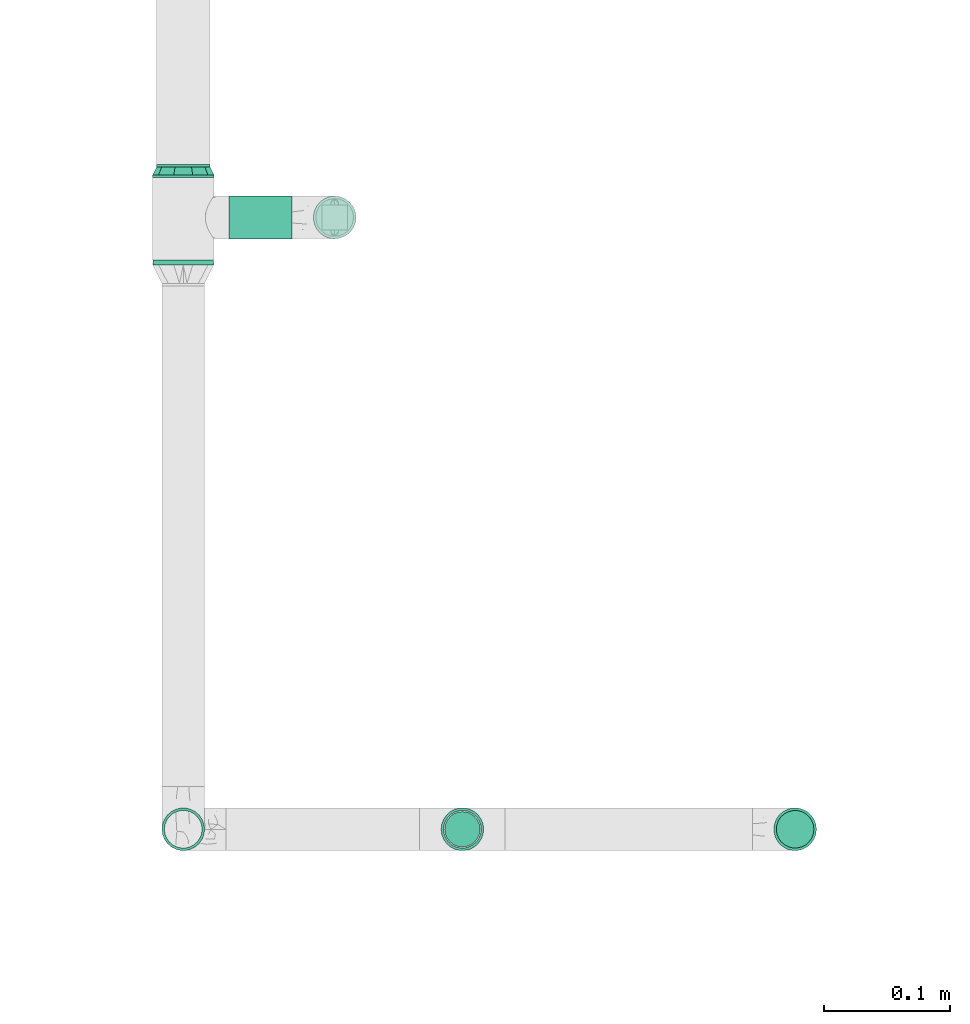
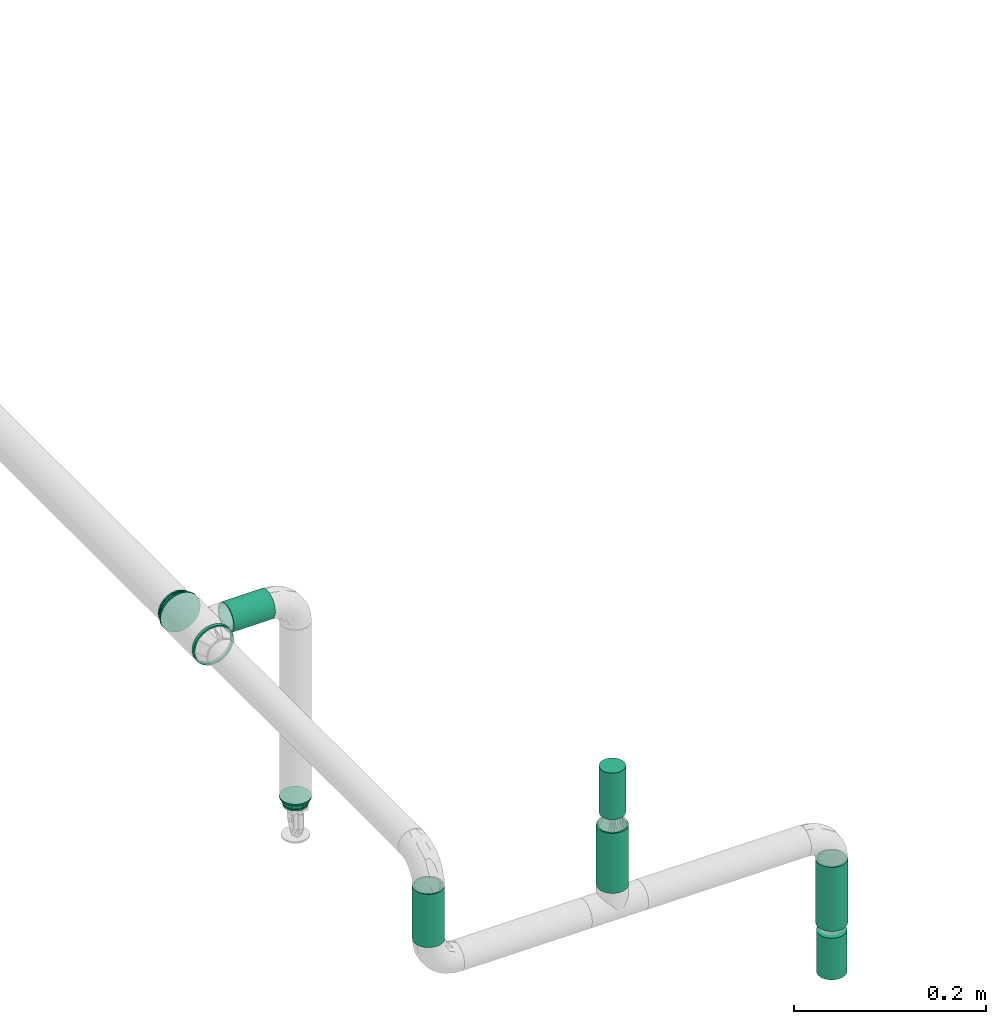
# One storey, part 13 of 43: 5 flow segments, 2 flow fittings, 2 flow terminals.
"""IFC2X3 building model written with IfcOpenShell, lengths in millimetres."""

import ifcopenshell
import ifcopenshell.guid

model = None  # the IFC model being written
_history = None  # IfcOwnerHistory: only IFC2X3 demands one
_inside = {}  # id of a spatial element -> (the spatial element, [elements in it])
_under = {}  # id of a project, library or spatial element -> (it, [spatial elements below it])
_declared = {}  # id of a project -> (the project, [libraries it declares])
_typed = {}  # id of a type object -> (the type object, [elements of that type])
_made_of = {}  # id of a material, layer set ... -> (it, [elements and type objects made of it])


def new_model(schema):
    """Start an empty IFC model of exactly this schema.

    Asked for "IFC4X3", IfcOpenShell would pick the latest addendum, in which some entities
    have other attributes; the version numbers below select the first issue.
    IFC2X3 requires an IfcOwnerHistory on every rooted entity: one is made here for all.
    """
    global model, _history
    if schema == "IFC4X3":
        model = ifcopenshell.file(schema_version=(4, 3, 0, 0))
    else:
        model = ifcopenshell.file(schema=schema)
    _inside.clear()
    _under.clear()
    _declared.clear()
    _typed.clear()
    _made_of.clear()
    _history = None
    if model.schema == "IFC2X3":
        org = make("IfcOrganization", Name="unknown")
        user = make(
            "IfcPersonAndOrganization",
            ThePerson=make("IfcPerson", FamilyName="unknown"),
            TheOrganization=org,
        )
        app = make(
            "IfcApplication",
            ApplicationDeveloper=org,
            Version="unknown",
            ApplicationFullName="unknown",
            ApplicationIdentifier="unknown",
        )
        _history = make(
            "IfcOwnerHistory",
            OwningUser=user,
            OwningApplication=app,
            ChangeAction="ADDED",
            CreationDate=0,
        )
    return model


def make(cls, **values):
    """One entity of the class cls with the attributes given. An attribute that is None is left unset."""
    return model.create_entity(
        cls, **{name: value for name, value in values.items() if value is not None}
    )


def entity(cls, *values):
    """Any entity or typed value of the class cls, its attributes in the order of the schema. None: left unset."""
    e = model.create_entity(cls)
    for i, value in enumerate(values):
        if value is not None:
            e[i] = value
    return e


def rooted(cls, **values):
    """An entity with a GlobalId (a new one), such as an element, a storey or a relation."""
    return make(cls, GlobalId=ifcopenshell.guid.new(), OwnerHistory=_history, **values)


def si_unit(unit_type, name, prefix=None):
    """IfcSIUnit, for example si_unit("LENGTHUNIT", "METRE", prefix="MILLI")."""
    return make("IfcSIUnit", UnitType=unit_type, Prefix=prefix, Name=name)


def converted_unit(unit_type, name, factor, base, dimensions=None, offset=None):
    """IfcConversionBasedUnit, such as the inch: factor (a typed value) times the base unit."""
    return make(
        "IfcConversionBasedUnit"
        if offset is None
        else "IfcConversionBasedUnitWithOffset",
        ConversionOffset=offset,
        Dimensions=None
        if dimensions is None
        else entity("IfcDimensionalExponents", *dimensions),
        UnitType=unit_type,
        Name=name,
        ConversionFactor=make(
            "IfcMeasureWithUnit", ValueComponent=factor, UnitComponent=base
        ),
    )


def derived_unit(unit_type, elements):
    """IfcDerivedUnit: a product of units, each with its exponent."""
    return make(
        "IfcDerivedUnit",
        Elements=[
            make("IfcDerivedUnitElement", Unit=unit, Exponent=power)
            for unit, power in elements
        ],
        UnitType=unit_type,
    )


def assignment(units):
    """IfcUnitAssignment: the units of a project."""
    return None if units is None else make("IfcUnitAssignment", Units=units)


def point(xyz):
    """IfcCartesianPoint."""
    return None if xyz is None else make("IfcCartesianPoint", Coordinates=xyz)


def direction(xyz):
    """IfcDirection."""
    return None if xyz is None else make("IfcDirection", DirectionRatios=xyz)


def frame(location, z_axis=None, x_axis=None):
    """IfcAxis2Placement3D, a coordinate frame: its origin and axes. An axis left out is left unset."""
    return make(
        "IfcAxis2Placement3D",
        Location=point(location),
        Axis=direction(z_axis),
        RefDirection=direction(x_axis),
    )


def frame_2d(location, x_axis=None):
    """IfcAxis2Placement2D, a coordinate frame in the plane: its origin and x axis."""
    return make(
        "IfcAxis2Placement2D", Location=point(location), RefDirection=direction(x_axis)
    )


def origin_with_axes():
    """The frame at (0, 0, 0) with the z axis (0, 0, 1) and the x axis (1, 0, 0) written out."""
    return frame((0.0, 0.0, 0.0), z_axis=(0.0, 0.0, 1.0), x_axis=(1.0, 0.0, 0.0))


def origin_2d_with_axis():
    """The frame at (0, 0) in the plane with the x axis (1, 0) written out."""
    return frame_2d((0.0, 0.0), x_axis=(1.0, 0.0))


def place(relative_to, where):
    """IfcLocalPlacement: puts the frame where relative to a parent placement (None: the world)."""
    return make(
        "IfcLocalPlacement", PlacementRelTo=relative_to, RelativePlacement=where
    )


def context(
    kind, dimensions, precision=None, world=None, true_north=None, identifier=None
):
    """IfcGeometricRepresentationContext, for example the 3D "Model" context."""
    return make(
        "IfcGeometricRepresentationContext",
        ContextIdentifier=identifier,
        ContextType=kind,
        CoordinateSpaceDimension=dimensions,
        Precision=precision,
        WorldCoordinateSystem=world,
        TrueNorth=true_north,
    )


def subcontext(parent, identifier, kind, view, scale=None):
    """IfcGeometricRepresentationSubContext, for example "Body" below "Model"."""
    return make(
        "IfcGeometricRepresentationSubContext",
        ContextIdentifier=identifier,
        ContextType=kind,
        ParentContext=parent,
        TargetScale=scale,
        TargetView=view,
    )


def project(units=None, contexts=None):
    """IfcProject with its units and contexts."""
    return rooted(
        "IfcProject",
        Name="project",
        RepresentationContexts=contexts,
        UnitsInContext=assignment(units),
    )


def spatial(cls, under=None, at=None, **own):
    """A site, building, storey or space (cls), placed at a placement, below another one or the project."""
    s = rooted(cls, ObjectPlacement=at, **own)
    if under is not None:
        _under.setdefault(under.id(), (under, []))[1].append(s)
    return s


def profile(cls, at=None, kind="AREA", **sizes):
    """A parametric profile (cls). Its sizes go by their IFC names, for example OverallWidth=200.0."""
    return make(cls, ProfileType=kind, Position=at, **sizes)


def hollow_circle(**sizes):
    """IfcCircleHollowProfileDef."""
    return profile("IfcCircleHollowProfileDef", **sizes)


def extrude(swept, where, along, depth):
    """IfcExtrudedAreaSolid: the profile swept, set in the frame where, extruded along a direction by depth."""
    return make(
        "IfcExtrudedAreaSolid",
        SweptArea=swept,
        Position=where,
        ExtrudedDirection=direction(along),
        Depth=depth,
    )


def faces_of(points, faces, orient=None, outer=None):
    """IfcFace entities. A face is a list of loops; a loop is a list of indices into points, from 0.

    orient and outer hold one flag for each loop. By default every Orientation is true, the
    first loop of a face is its IfcFaceOuterBound and the others are IfcFaceBound.
    """
    made = []
    for i, loops in enumerate(faces):
        bounds = []
        for j, loop in enumerate(loops):
            is_outer = j == 0 if outer is None else outer[i][j]
            bounds.append(
                make(
                    "IfcFaceOuterBound" if is_outer else "IfcFaceBound",
                    Bound=make("IfcPolyLoop", Polygon=[points[k] for k in loop]),
                    Orientation=True if orient is None else orient[i][j],
                )
            )
        made.append(make("IfcFace", Bounds=bounds))
    return made


def open_shell(faces, orient=None, outer=None):
    """The faces of one IfcOpenShell. surface_model builds it on its shared points."""
    return ("IfcOpenShell", faces, orient, outer)


def surface_model(cls, points, shells):
    """IfcFaceBasedSurfaceModel or IfcShellBasedSurfaceModel (cls): surfaces that need not close."""
    shared = [point(p) for p in points]
    made = [make(c, CfsFaces=faces_of(shared, fs, o, b)) for c, fs, o, b in shells]
    if cls == "IfcFaceBasedSurfaceModel":
        return make(cls, FbsmFaces=made)
    return make(cls, SbsmBoundary=made)


def shape(context_of_items, identifier, shape_type, items):
    """IfcShapeRepresentation: the items that make up one representation, for example the "Body"."""
    return make(
        "IfcShapeRepresentation",
        ContextOfItems=context_of_items,
        RepresentationIdentifier=identifier,
        RepresentationType=shape_type,
        Items=items,
    )


def source(mapping_origin, context_of_items, identifier, shape_type, items):
    """IfcRepresentationMap: a shape defined once, which mapped items show again and again."""
    return make(
        "IfcRepresentationMap",
        MappingOrigin=mapping_origin,
        MappedRepresentation=shape(context_of_items, identifier, shape_type, items),
    )


def transform(
    local_origin,
    x_axis=None,
    y_axis=None,
    z_axis=None,
    scale=None,
    scale2=None,
    scale3=None,
    uniform=True,
):
    """IfcCartesianTransformationOperator3D, or its non-uniform kind. x_axis, y_axis, z_axis: its Axis1, 2, 3."""
    if uniform:
        return make(
            "IfcCartesianTransformationOperator3D",
            Axis1=direction(x_axis),
            Axis2=direction(y_axis),
            LocalOrigin=point(local_origin),
            Scale=scale,
            Axis3=direction(z_axis),
        )
    return make(
        "IfcCartesianTransformationOperator3DnonUniform",
        Axis1=direction(x_axis),
        Axis2=direction(y_axis),
        LocalOrigin=point(local_origin),
        Scale=scale,
        Axis3=direction(z_axis),
        Scale2=scale2,
        Scale3=scale3,
    )


def mapped(mapping_source, mapping_target):
    """IfcMappedItem: shows the shape of a source again, moved by a transform."""
    return make(
        "IfcMappedItem", MappingSource=mapping_source, MappingTarget=mapping_target
    )


def made_of(thing, what):
    """Note that an element or type object is made of a material, layer set ...; save() writes the relation."""
    if what is not None:
        _made_of.setdefault(what.id(), (what, []))[1].append(thing)
    return thing


def type_object(cls, material=None, **own):
    """A type object (cls), such as IfcWallType, which elements share."""
    return made_of(rooted(cls, **own), material)


def element(
    cls,
    number,
    at=None,
    inside=None,
    cuts=None,
    type_object=None,
    material=None,
    context=None,
    identifier="Body",
    shape_type=None,
    held_by="IfcProductDefinitionShape",
    body=None,
    shapes=None,
    **own,
):
    """One element of the class cls, such as IfcWall. Its Tag is "e" and its number.

    at: its placement. inside: the storey or other place that contains it. cuts: it is an
    opening in that element (IfcRelVoidsElement). A single representation is given by context,
    identifier, shape_type and body (its items); several are given by shapes. held_by: the class
    of the entity that holds the representations. save() writes the other relations.
    """
    e = rooted(cls, Tag="e%d" % number, ObjectPlacement=at, **own)
    if body is not None:
        shapes = [shape(context, identifier, shape_type, body)]
    if shapes is not None:
        e.Representation = make(held_by, Representations=shapes)
    if inside is not None:
        _inside.setdefault(inside.id(), (inside, []))[1].append(e)
    if cuts is not None:
        rooted(
            "IfcRelVoidsElement", RelatingBuildingElement=cuts, RelatedOpeningElement=e
        )
    if type_object is not None:
        _typed.setdefault(type_object.id(), (type_object, []))[1].append(e)
    return made_of(e, material)


def aggregate(whole, parts):
    """IfcRelAggregates: a whole, such as a stair, and the parts it consists of."""
    return rooted("IfcRelAggregates", RelatingObject=whole, RelatedObjects=parts)


def save(model, path):
    """Write the relations noted so far, then the file.

    IfcRelAggregates (storeys below a building ...), IfcRelContainedInSpatialStructure (elements
    in a storey), IfcRelDefinesByType, IfcRelAssociatesMaterial and IfcRelDeclares: one each for
    every whole, place, type object, material and project.
    """
    for whole, parts in _under.values():
        aggregate(whole, parts)
    for where, things in _inside.values():
        rooted(
            "IfcRelContainedInSpatialStructure",
            RelatedElements=things,
            RelatingStructure=where,
        )
    for kind, things in _typed.values():
        rooted("IfcRelDefinesByType", RelatedObjects=things, RelatingType=kind)
    for what, things in _made_of.values():
        rooted("IfcRelAssociatesMaterial", RelatedObjects=things, RelatingMaterial=what)
    for by, libraries in _declared.values():
        rooted("IfcRelDeclares", RelatingContext=by, RelatedDefinitions=libraries)
    model.write(path)


model = new_model("IFC2X3")

# Units and contexts
model_context = context("Model", 3, precision=0.01, world=frame((0.0, 4.29681676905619e-09, 0.0)), true_north=direction((4.01073788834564e-13, 1.0)))
plan_context = context("Plan", 3, precision=0.01, world=frame((0.0, 4.29681676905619e-09, 0.0)), true_north=direction((4.01073788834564e-13, 1.0)))
body_context = subcontext(model_context, "Body", "Model", "MODEL_VIEW")
ifc_project = project(units=[converted_unit("PLANEANGLEUNIT", "DEGREE", entity("IfcPositiveLengthMeasure", 0.0174532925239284), si_unit("PLANEANGLEUNIT", "RADIAN"), dimensions=[0, 0, 0, 0, 0, 0, 0]), si_unit("AREAUNIT", "SQUARE_METRE"), si_unit("LENGTHUNIT", "METRE", prefix="MILLI"), si_unit("MASSUNIT", "GRAM", prefix="KILO"), si_unit("POWERUNIT", "WATT"), si_unit("PRESSUREUNIT", "PASCAL"), si_unit("FORCEUNIT", "NEWTON", prefix="KILO"), si_unit("ELECTRICVOLTAGEUNIT", "VOLT"), si_unit("ELECTRICCURRENTUNIT", "AMPERE"), si_unit("THERMODYNAMICTEMPERATUREUNIT", "DEGREE_CELSIUS"), si_unit("TIMEUNIT", "SECOND"), si_unit("VOLUMEUNIT", "CUBIC_METRE"), derived_unit("LINEARVELOCITYUNIT", [(si_unit("LENGTHUNIT", "METRE"), 1), (si_unit("TIMEUNIT", "SECOND"), -1)]), derived_unit("VOLUMETRICFLOWRATEUNIT", [(si_unit("VOLUMEUNIT", "CUBIC_METRE"), 1), (si_unit("TIMEUNIT", "SECOND"), -1)]), derived_unit("THERMALTRANSMITTANCEUNIT", [(si_unit("POWERUNIT", "WATT"), 1), (si_unit("THERMODYNAMICTEMPERATUREUNIT", "KELVIN"), -1), (si_unit("AREAUNIT", "SQUARE_METRE"), -1)]), derived_unit("SOUNDPRESSUREUNIT", [(si_unit("PRESSUREUNIT", "PASCAL"), 1)])], contexts=[model_context, plan_context])

# Site, building, storey
site_placement = place(None, frame((0.0, -4.29681676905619e-09, 0.0), z_axis=(0.0, 0.0, 1.0), x_axis=(1.0, 0.0, 0.0)))
site = spatial("IfcSite", under=ifc_project, at=site_placement, CompositionType="ELEMENT")
building_placement = place(site_placement, frame((0.0, 4.29681676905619e-09, 0.0), z_axis=(0.0, 0.0, 1.0), x_axis=(1.0, 0.0, 0.0)))
building = spatial("IfcBuilding", under=site, at=building_placement, Name="mc-building", CompositionType="ELEMENT")
storey_placement = place(building_placement, frame((0.0, 0.0, 210900.0), z_axis=(0.0, 0.0, 1.0), x_axis=(1.0, 0.0, 0.0)))
storey = spatial("IfcBuildingStorey", under=building, at=storey_placement, Name="Nivå F", CompositionType="ELEMENT", Elevation=210900.0)

# Flow fittings
pipe_fitting_type = type_object("IfcPipeFittingType", Name="magi_pipe_fe_reducer_centric_short_NOR", PredefinedType="TRANSITION")
shared_shape_1 = source(origin_with_axes(), body_context, "Body", "SurfaceModel", [
    surface_model("IfcShellBasedSurfaceModel", [(8.0, 10.6, -18.35974), (8.0, 0.0, -21.2), (8.0, 5.48696, -20.47763), (8.0, 20.47763, -5.48696), (8.0, 14.99066, -14.99066), (8.0, -21.2, 0.0), (8.0, -14.99066, -14.99066), (8.0, 18.35974, -10.6), (8.0, -10.6, -18.35974), (8.0, -5.48696, -20.47763), (8.0, -18.35974, -10.6), (8.0, -20.47763, -5.48696), (8.0, -18.35974, 10.6), (8.0, 21.2, 0.0), (8.0, 20.47763, 5.48696), (8.0, 18.35974, 10.6), (8.0, 14.99066, 14.99066), (8.0, 0.0, 21.2), (8.0, 10.6, 18.35974), (8.0, 5.48696, 20.47763), (8.0, -14.99066, 14.99066), (8.0, -20.47763, 5.48696), (8.0, -5.48696, 20.47763), (8.0, -10.6, 18.35974), (6.0, 0.0, 21.2), (6.0, 5.48696, 20.47763), (6.0, 10.6, 18.35974), (6.0, 14.99066, 14.99066), (6.0, 18.35974, 10.6), (6.0, 20.47763, 5.48696), (6.0, -21.2, 0.0), (6.0, -14.99066, -14.99066), (6.0, -5.48696, 20.47763), (6.0, -14.99066, 14.99066), (6.0, -10.6, 18.35974), (6.0, -18.35974, 10.6), (6.0, -20.47763, 5.48696), (6.0, 20.47763, -5.48696), (6.0, 10.6, -18.35974), (6.0, 14.99066, -14.99066), (6.0, 18.35974, -10.6), (6.0, 5.48696, -20.47763), (6.0, 0.0, -21.2), (6.0, -18.35974, -10.6), (6.0, -20.47763, -5.48696), (6.0, -10.6, -18.35974), (6.0, -5.48696, -20.47763), (6.0, 21.2, 0.0), (-2.0, 0.0, 24.2), (-2.0, 6.26342, 23.37541), (-2.0, 12.1, 20.95781), (-2.0, 17.11198, 17.11198), (-2.0, 24.2, 0.0), (-2.0, 20.95781, 12.1), (-2.0, -23.37541, 6.26342), (-2.0, -17.11198, -17.11198), (-2.0, -6.26342, 23.37541), (-2.0, -17.11198, 17.11198), (-2.0, -12.1, 20.95781), (-2.0, -20.95781, 12.1), (-2.0, -24.2, 0.0), (-2.0, 23.37541, 6.26342), (-2.0, 23.37541, -6.26342), (-2.0, 6.26342, -23.37541), (-2.0, 17.11198, -17.11198), (-2.0, 20.95781, -12.1), (-2.0, 12.1, -20.95781), (-2.0, -23.37541, -6.26342), (-2.0, -20.95781, -12.1), (-2.0, -6.26342, -23.37541), (-2.0, -12.1, -20.95781), (-2.0, 0.0, -24.2), (0.0, 24.2, 0.0), (0.0, 6.26342, -23.37541), (0.0, 12.1, -20.95781), (0.0, 23.37541, -6.26342), (0.0, 17.11198, -17.11198), (0.0, 20.95781, -12.1), (0.0, -24.2, 0.0), (0.0, -12.1, -20.95781), (0.0, -6.26342, -23.37541), (0.0, 0.0, -24.2), (0.0, -17.11198, -17.11198), (0.0, -23.37541, -6.26342), (0.0, -20.95781, -12.1), (0.0, 20.95781, 12.1), (0.0, 17.11198, 17.11198), (0.0, 12.1, 20.95781), (0.0, 6.26342, 23.37541), (0.0, 0.0, 24.2), (0.0, -23.37541, 6.26342), (0.0, -17.11198, 17.11198), (0.0, -20.95781, 12.1), (0.0, -6.26342, 23.37541), (0.0, -12.1, 20.95781), (0.0, 23.37541, 6.26342), (6.0, -6.55116, 20.1624), (6.0, -17.15116, 12.46105), (6.0, 17.15116, 12.46105), (6.0, 6.55116, 20.1624), (6.0, -6.55116, -20.1624), (6.0, -17.15116, -12.46105), (6.0, 6.55116, -20.1624), (6.0, 17.15116, -12.46105), (0.0, 7.47821, 23.01557), (0.0, 19.57821, 14.2244), (0.0, -7.47821, 23.01557), (0.0, -19.57821, 14.2244), (0.0, 7.47821, -23.01557), (0.0, 19.57821, -14.2244), (0.0, -7.47821, -23.01557), (0.0, -19.57821, -14.2244), (6.0, 11.85116, -16.31172), (0.0, 13.52821, -18.61999), (0.0, 21.8891, -7.1122), (6.0, 19.17558, -6.23052), (0.0, -22.51537, -5.18476), (6.0, 0.0, -20.1624), (0.0, 0.0, -23.01557), (6.0, -19.17558, -6.23052), (0.0, -13.52821, -18.61999), (6.0, -11.85116, -16.31172), (0.0, -21.04679, -9.70458), (6.0, -11.85116, 16.31172), (0.0, -13.52821, 18.61999), (0.0, -21.8891, 7.1122), (6.0, -19.17558, 6.23052), (0.0, 22.51537, 5.18476), (6.0, 0.0, 20.1624), (0.0, 0.0, 23.01557), (6.0, 19.17558, 6.23052), (0.0, 13.52821, 18.61999), (6.0, 11.85116, 16.31172), (0.0, 21.04679, 9.70458)], [open_shell([[[0, 1, 2]], [[3, 0, 4]], [[5, 6, 0]], [[3, 4, 7]], [[3, 5, 0]], [[1, 8, 9]], [[1, 0, 8]], [[10, 5, 11]], [[8, 0, 6]], [[10, 6, 5]], [[12, 3, 13]], [[14, 15, 16]], [[14, 16, 17]], [[18, 19, 17]], [[18, 17, 16]], [[14, 17, 20]], [[5, 12, 21]], [[3, 12, 5]], [[20, 22, 23]], [[12, 14, 20]], [[17, 22, 20]], [[12, 13, 14]], [[24, 25, 26]], [[24, 26, 27]], [[27, 28, 29]], [[27, 29, 24]], [[30, 24, 31]], [[32, 33, 34]], [[32, 24, 33]], [[35, 30, 36]], [[33, 24, 35]], [[24, 30, 35]], [[24, 29, 31]], [[29, 37, 38]], [[39, 37, 40]], [[31, 29, 38]], [[38, 37, 39]], [[41, 42, 38]], [[30, 43, 44]], [[31, 43, 30]], [[45, 42, 46]], [[45, 31, 38]], [[42, 45, 38]], [[37, 29, 47]], [[44, 11, 30]], [[43, 10, 44]], [[8, 31, 45]], [[43, 31, 6]], [[9, 45, 46]], [[44, 10, 11]], [[11, 5, 30]], [[9, 8, 45]], [[6, 31, 8]], [[6, 10, 43]], [[1, 9, 46]], [[46, 42, 1]], [[41, 2, 42]], [[38, 0, 41]], [[7, 39, 40]], [[38, 39, 4]], [[3, 40, 37]], [[38, 4, 0]], [[0, 2, 41]], [[13, 3, 37]], [[7, 40, 3]], [[7, 4, 39]], [[47, 13, 37]], [[42, 2, 1]], [[29, 14, 47]], [[28, 15, 29]], [[18, 27, 26]], [[28, 27, 16]], [[19, 26, 25]], [[29, 15, 14]], [[14, 13, 47]], [[19, 18, 26]], [[16, 27, 18]], [[16, 15, 28]], [[17, 19, 25]], [[25, 24, 17]], [[32, 22, 24]], [[34, 23, 32]], [[12, 33, 35]], [[34, 33, 20]], [[21, 35, 36]], [[34, 20, 23]], [[23, 22, 32]], [[5, 21, 36]], [[12, 35, 21]], [[12, 20, 33]], [[30, 5, 36]], [[24, 22, 17]], [[48, 49, 50]], [[48, 50, 51]], [[52, 51, 53]], [[54, 48, 55]], [[48, 51, 55]], [[56, 57, 58]], [[56, 48, 57]], [[57, 54, 59]], [[48, 54, 57]], [[54, 55, 60]], [[52, 53, 61]], [[51, 62, 63]], [[64, 62, 65]], [[66, 63, 62]], [[66, 62, 64]], [[63, 55, 51]], [[67, 55, 68]], [[60, 55, 67]], [[63, 69, 70]], [[70, 55, 63]], [[69, 63, 71]], [[62, 51, 52]], [[72, 73, 74]], [[75, 74, 76]], [[75, 72, 74]], [[75, 76, 77]], [[73, 78, 79]], [[73, 80, 81]], [[73, 79, 80]], [[82, 83, 84]], [[82, 79, 78]], [[82, 78, 83]], [[73, 72, 85]], [[85, 86, 73]], [[73, 86, 78]], [[87, 88, 89]], [[87, 89, 86]], [[78, 86, 89]], [[90, 91, 92]], [[93, 90, 78]], [[91, 93, 94]], [[93, 91, 90]], [[78, 89, 93]], [[72, 95, 85]], [[67, 83, 60]], [[68, 84, 67]], [[79, 55, 70]], [[68, 55, 82]], [[80, 70, 69]], [[67, 84, 83]], [[83, 78, 60]], [[80, 79, 70]], [[82, 55, 79]], [[82, 84, 68]], [[81, 80, 69]], [[69, 71, 81]], [[63, 73, 71]], [[66, 74, 63]], [[77, 64, 65]], [[66, 64, 76]], [[75, 65, 62]], [[66, 76, 74]], [[74, 73, 63]], [[72, 75, 62]], [[77, 65, 75]], [[77, 76, 64]], [[52, 72, 62]], [[71, 73, 81]], [[61, 95, 52]], [[53, 85, 61]], [[87, 51, 50]], [[53, 51, 86]], [[88, 50, 49]], [[61, 85, 95]], [[95, 72, 52]], [[88, 87, 50]], [[86, 51, 87]], [[86, 85, 53]], [[89, 88, 49]], [[49, 48, 89]], [[56, 93, 48]], [[58, 94, 56]], [[92, 57, 59]], [[58, 57, 91]], [[90, 59, 54]], [[58, 91, 94]], [[94, 93, 56]], [[78, 90, 54]], [[92, 59, 90]], [[92, 91, 57]], [[60, 78, 54]], [[48, 93, 89]], [[96, 97, 98]], [[96, 98, 99]], [[98, 97, 47]], [[97, 100, 47]], [[97, 101, 100]], [[102, 103, 47]], [[47, 100, 102]], [[101, 97, 30]], [[104, 105, 106]], [[105, 107, 106]], [[107, 105, 78]], [[105, 108, 78]], [[109, 108, 105]], [[78, 110, 111]], [[78, 108, 110]], [[105, 72, 109]], [[109, 103, 112]], [[102, 113, 112]], [[113, 102, 108]], [[114, 115, 103]], [[47, 115, 72]], [[113, 109, 112]], [[30, 78, 116]], [[108, 117, 118]], [[118, 117, 100]], [[100, 110, 118]], [[103, 109, 114]], [[72, 115, 114]], [[116, 119, 30]], [[120, 121, 101]], [[100, 121, 110]], [[119, 122, 101]], [[110, 121, 120]], [[101, 111, 120]], [[119, 116, 122]], [[102, 117, 108]], [[122, 111, 101]], [[107, 97, 123]], [[96, 124, 123]], [[124, 96, 106]], [[125, 126, 97]], [[30, 126, 78]], [[124, 107, 123]], [[47, 72, 127]], [[106, 128, 129]], [[129, 128, 99]], [[99, 104, 129]], [[97, 107, 125]], [[78, 126, 125]], [[127, 130, 47]], [[131, 132, 98]], [[99, 132, 104]], [[130, 133, 98]], [[104, 132, 131]], [[98, 105, 131]], [[130, 127, 133]], [[96, 128, 106]], [[133, 105, 98]]])]),
])
flow_fitting_1_placement = place(storey_placement, frame((607879.57252, 690236.5492, 2660.0), z_axis=(0.0, 0.0, 1.0), x_axis=(0.0, 1.0, 0.0)))
element("IfcFlowFitting", 1, at=flow_fitting_1_placement, inside=storey, type_object=pipe_fitting_type, Name="magi_pipe_fe_reducer_centric_short_NOR", context=body_context, shape_type="MappedRepresentation", body=[
    mapped(shared_shape_1, transform((0.0, 0.0, 0.0), scale=1.0)),
])
shared_shape_2 = source(origin_with_axes(), body_context, "Body", "SurfaceModel", [
    surface_model("IfcShellBasedSurfaceModel", [(9.0, 4.37404, -16.32415), (9.0, 8.45, -14.63583), (9.0, 11.9501, -11.9501), (9.0, 0.0, -16.9), (9.0, 16.32415, -4.37404), (9.0, 16.32415, 4.37404), (9.0, 14.63583, -8.45), (9.0, -8.45, -14.63583), (9.0, -4.37404, -16.32415), (9.0, -11.9501, -11.9501), (9.0, -16.32415, -4.37404), (9.0, -14.63583, -8.45), (9.0, -16.32415, 4.37404), (9.0, 16.9, 0.0), (9.0, 14.63583, 8.45), (9.0, 11.9501, 11.9501), (9.0, 4.37404, 16.32415), (9.0, 0.0, 16.9), (9.0, 8.45, 14.63583), (9.0, -14.63583, 8.45), (9.0, -16.9, 0.0), (9.0, -8.45, 14.63583), (9.0, -11.9501, 11.9501), (9.0, -4.37404, 16.32415), (7.0, 4.37404, 16.32415), (7.0, -14.63583, 8.45), (7.0, 0.0, 16.9), (7.0, 16.32415, 4.37404), (7.0, 8.45, 14.63583), (7.0, 11.9501, 11.9501), (7.0, 14.63583, 8.45), (7.0, -8.45, 14.63583), (7.0, -11.9501, 11.9501), (7.0, -4.37404, 16.32415), (7.0, -16.32415, 4.37404), (7.0, -16.32415, -4.37404), (7.0, -16.9, 0.0), (7.0, -8.45, -14.63583), (7.0, 16.32415, -4.37404), (7.0, 11.9501, -11.9501), (7.0, 14.63583, -8.45), (7.0, 8.45, -14.63583), (7.0, 4.37404, -16.32415), (7.0, 0.0, -16.9), (7.0, -11.9501, -11.9501), (7.0, -14.63583, -8.45), (7.0, -4.37404, -16.32415), (7.0, 16.9, 0.0), (-2.0, -9.47523, 9.47523), (-2.0, 0.0, 13.4), (-2.0, 3.46818, 12.94341), (-2.0, 6.7, 11.60474), (-2.0, 9.47523, 9.47523), (-2.0, 11.60474, 6.7), (-2.0, 12.94341, 3.46818), (-2.0, -3.46818, 12.94341), (-2.0, -6.7, 11.60474), (-2.0, -12.94341, 3.46818), (-2.0, -11.60474, 6.7), (-2.0, -6.7, -11.60474), (-2.0, -12.94341, -3.46818), (-2.0, -13.4, 0.0), (-2.0, 12.94341, -3.46818), (-2.0, 6.7, -11.60474), (-2.0, 9.47523, -9.47523), (-2.0, 11.60474, -6.7), (-2.0, 3.46818, -12.94341), (-2.0, 0.0, -13.4), (-2.0, -9.47523, -9.47523), (-2.0, -11.60474, -6.7), (-2.0, -3.46818, -12.94341), (-2.0, 13.4, 0.0), (0.0, 12.94341, -3.46818), (0.0, 3.46818, -12.94341), (0.0, 6.7, -11.60474), (0.0, 11.60474, -6.7), (0.0, 9.47523, -9.47523), (0.0, -6.7, -11.60474), (0.0, -12.94341, 3.46818), (0.0, -3.46818, -12.94341), (0.0, 0.0, -13.4), (0.0, -9.47523, -9.47523), (0.0, -12.94341, -3.46818), (0.0, -11.60474, -6.7), (0.0, 13.4, 0.0), (0.0, 12.94341, 3.46818), (0.0, 11.60474, 6.7), (0.0, 9.47523, 9.47523), (0.0, 0.0, 13.4), (0.0, 6.7, 11.60474), (0.0, 3.46818, 12.94341), (0.0, -9.47523, 9.47523), (0.0, -11.60474, 6.7), (0.0, -13.4, 0.0), (0.0, -3.46818, 12.94341), (0.0, -6.7, 11.60474), (7.0, -14.51228, -5.76448), (0.0, -11.43761, -4.73762), (7.0, -13.23119, -8.85729), (0.0, -10.45642, -7.10642), (0.0, -12.41881, -2.36881), (7.0, -15.70614, -2.88224), (0.0, -2.36881, -12.41881), (7.0, -5.97505, -14.42505), (0.0, -7.10642, -10.45642), (0.0, -4.73762, -11.43761), (7.0, -2.98753, -15.66253), (7.0, -8.96258, -13.18758), (7.0, 2.98753, -15.66253), (0.0, 2.36881, -12.41881), (0.0, 12.45339, -2.28533), (7.0, 13.18758, -8.96258), (0.0, 10.45642, -7.10642), (7.0, 14.42505, -5.97505), (0.0, 11.43761, -4.73762), (0.0, 7.10642, -10.45642), (7.0, 8.96258, -13.18758), (7.0, 15.66253, -2.98753), (0.0, 4.73762, -11.43761), (7.0, 5.97505, -14.42505), (7.0, 14.51228, 5.76448), (0.0, 11.43761, 4.73762), (7.0, 13.23119, 8.85729), (0.0, 10.45642, 7.10642), (0.0, 12.41881, 2.36881), (7.0, 15.70614, 2.88224), (0.0, 2.36881, 12.41881), (7.0, 5.97505, 14.42505), (0.0, 7.10642, 10.45642), (0.0, 4.73762, 11.43761), (7.0, 2.98753, 15.66253), (7.0, 8.96258, 13.18758), (7.0, -2.98753, 15.66253), (0.0, -2.36881, 12.41881), (0.0, -12.45339, 2.28533), (7.0, -13.18758, 8.96258), (0.0, -10.45642, 7.10642), (7.0, -14.42505, 5.97505), (0.0, -11.43761, 4.73762), (0.0, -7.10642, 10.45642), (7.0, -8.96258, 13.18758), (7.0, -15.66253, 2.98753), (0.0, -4.73762, 11.43761), (7.0, -5.97505, 14.42505)], [open_shell([[[0, 1, 2]], [[3, 0, 2]], [[2, 4, 5]], [[4, 2, 6]], [[2, 5, 7]], [[3, 7, 8]], [[3, 2, 7]], [[9, 10, 11]], [[10, 9, 7]], [[7, 12, 10]], [[5, 4, 13]], [[5, 14, 15]], [[5, 15, 16]], [[16, 17, 5]], [[16, 15, 18]], [[5, 17, 19]], [[5, 19, 12]], [[20, 10, 12]], [[19, 21, 22]], [[19, 17, 21]], [[21, 17, 23]], [[12, 7, 5]], [[24, 25, 26]], [[27, 24, 28]], [[29, 30, 27]], [[29, 27, 28]], [[25, 24, 27]], [[31, 25, 32]], [[25, 31, 33]], [[26, 25, 33]], [[27, 34, 25]], [[34, 35, 36]], [[34, 27, 37]], [[27, 38, 39]], [[39, 38, 40]], [[39, 41, 42]], [[37, 27, 39]], [[42, 43, 39]], [[35, 44, 45]], [[44, 35, 37]], [[37, 43, 46]], [[35, 34, 37]], [[39, 43, 37]], [[38, 27, 47]], [[35, 10, 36]], [[45, 11, 35]], [[7, 44, 37]], [[45, 44, 9]], [[8, 37, 46]], [[35, 11, 10]], [[10, 20, 36]], [[8, 7, 37]], [[9, 44, 7]], [[9, 11, 45]], [[3, 8, 46]], [[46, 43, 3]], [[42, 0, 43]], [[41, 1, 42]], [[6, 39, 40]], [[41, 39, 2]], [[4, 40, 38]], [[41, 2, 1]], [[1, 0, 42]], [[13, 4, 38]], [[6, 40, 4]], [[6, 2, 39]], [[47, 13, 38]], [[43, 0, 3]], [[27, 5, 47]], [[30, 14, 27]], [[18, 29, 28]], [[30, 29, 15]], [[16, 28, 24]], [[27, 14, 5]], [[5, 13, 47]], [[16, 18, 28]], [[15, 29, 18]], [[15, 14, 30]], [[17, 16, 24]], [[24, 26, 17]], [[33, 23, 26]], [[31, 21, 33]], [[19, 32, 25]], [[31, 32, 22]], [[12, 25, 34]], [[31, 22, 21]], [[21, 23, 33]], [[20, 12, 34]], [[19, 25, 12]], [[19, 22, 32]], [[36, 20, 34]], [[26, 23, 17]], [[48, 49, 50]], [[51, 48, 50]], [[52, 53, 54]], [[52, 54, 51]], [[48, 51, 54]], [[55, 48, 56]], [[55, 49, 48]], [[48, 57, 58]], [[48, 59, 57]], [[57, 60, 61]], [[62, 48, 54]], [[48, 62, 63]], [[64, 62, 65]], [[66, 48, 63]], [[63, 62, 64]], [[66, 67, 48]], [[60, 68, 69]], [[60, 57, 68]], [[70, 59, 48]], [[57, 59, 68]], [[70, 48, 67]], [[71, 62, 54]], [[72, 73, 74]], [[75, 74, 76]], [[77, 73, 78]], [[72, 74, 75]], [[73, 72, 78]], [[73, 79, 80]], [[73, 77, 79]], [[81, 82, 83]], [[78, 82, 81]], [[81, 77, 78]], [[72, 84, 78]], [[85, 86, 87]], [[85, 87, 88]], [[89, 90, 88]], [[89, 88, 87]], [[85, 88, 91]], [[78, 91, 92]], [[93, 82, 78]], [[91, 94, 95]], [[91, 78, 85]], [[94, 91, 88]], [[78, 84, 85]], [[60, 82, 61]], [[69, 83, 60]], [[77, 68, 59]], [[69, 68, 81]], [[79, 59, 70]], [[60, 83, 82]], [[82, 93, 61]], [[79, 77, 59]], [[81, 68, 77]], [[81, 83, 69]], [[80, 79, 70]], [[70, 67, 80]], [[66, 73, 67]], [[63, 74, 66]], [[75, 64, 65]], [[63, 64, 76]], [[72, 65, 62]], [[63, 76, 74]], [[74, 73, 66]], [[84, 72, 62]], [[75, 65, 72]], [[75, 76, 64]], [[71, 84, 62]], [[67, 73, 80]], [[54, 85, 71]], [[53, 86, 54]], [[89, 52, 51]], [[53, 52, 87]], [[90, 51, 50]], [[54, 86, 85]], [[85, 84, 71]], [[90, 89, 51]], [[87, 52, 89]], [[87, 86, 53]], [[88, 90, 50]], [[50, 49, 88]], [[55, 94, 49]], [[56, 95, 55]], [[92, 48, 58]], [[56, 48, 91]], [[78, 58, 57]], [[56, 91, 95]], [[95, 94, 55]], [[93, 78, 57]], [[92, 58, 78]], [[92, 91, 48]], [[61, 93, 57]], [[49, 94, 88]], [[36, 29, 26]], [[39, 47, 29]], [[26, 32, 36]], [[36, 44, 43]], [[43, 39, 36]], [[36, 39, 29]], [[81, 91, 88]], [[81, 93, 91]], [[88, 87, 84]], [[84, 76, 81]], [[80, 81, 76]], [[84, 81, 88]], [[96, 97, 98]], [[81, 44, 99]], [[100, 96, 101]], [[102, 80, 43]], [[103, 104, 105]], [[102, 43, 106]], [[107, 81, 104]], [[108, 80, 109]], [[110, 84, 47]], [[93, 101, 36]], [[108, 43, 80]], [[111, 76, 112]], [[113, 112, 114]], [[115, 39, 116]], [[110, 47, 117]], [[99, 98, 97]], [[117, 113, 114]], [[106, 103, 105]], [[118, 116, 119]], [[109, 118, 119]], [[96, 100, 97]], [[93, 100, 101]], [[99, 44, 98]], [[104, 103, 107]], [[107, 44, 81]], [[106, 105, 102]], [[112, 113, 111]], [[111, 39, 76]], [[117, 114, 110]], [[116, 118, 115]], [[115, 76, 39]], [[109, 119, 108]], [[120, 121, 122]], [[87, 29, 123]], [[124, 120, 125]], [[126, 88, 26]], [[127, 128, 129]], [[126, 26, 130]], [[131, 87, 128]], [[132, 88, 133]], [[134, 93, 36]], [[84, 125, 47]], [[132, 26, 88]], [[135, 91, 136]], [[137, 136, 138]], [[139, 32, 140]], [[134, 36, 141]], [[123, 122, 121]], [[141, 137, 138]], [[130, 127, 129]], [[142, 140, 143]], [[133, 142, 143]], [[120, 124, 121]], [[84, 124, 125]], [[123, 29, 122]], [[128, 127, 131]], [[131, 29, 87]], [[130, 129, 126]], [[136, 137, 135]], [[135, 32, 91]], [[141, 138, 134]], [[140, 142, 139]], [[139, 91, 32]], [[133, 143, 132]]])]),
])
flow_fitting_2_placement = place(storey_placement, frame((607999.57252, 690202.7492, 2395.5), z_axis=(-1.0, 0.0, 0.0), x_axis=(0.0, 0.0, 1.0)))
element("IfcFlowFitting", 2, at=flow_fitting_2_placement, inside=storey, type_object=pipe_fitting_type, Name="magi_pipe_fe_reducer_centric_short_NOR", context=body_context, shape_type="MappedRepresentation", body=[
    mapped(shared_shape_2, transform((0.0, 0.0, 0.0), scale=1.0)),
])

# Flow segments
pipe_segment_type = type_object("IfcPipeSegmentType", Name="Stålrør normaltykke", PredefinedType="RIGIDSEGMENT")
shared_shape_3 = source(origin_with_axes(), body_context, "Body", "SweptSolid", [
    extrude(hollow_circle(Radius=16.9, WallThickness=2.0, at=origin_2d_with_axis()), frame((0.0, 0.0, 0.0), z_axis=(1.0, 0.0, 0.0), x_axis=(0.0, 1.0, 0.0)), (0.0, 0.0, 1.0), 76.4),
])
flow_segment_1_placement = place(storey_placement, frame((608100.82252, 689717.7797, 2626.39999999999), z_axis=(0.0, 1.0, 0.0), x_axis=(0.0, 0.0, -1.0)))
element("IfcFlowSegment", 3, at=flow_segment_1_placement, inside=storey, type_object=pipe_segment_type, Name="Stålrør normaltykke", context=body_context, shape_type="MappedRepresentation", body=[
    mapped(shared_shape_3, transform((0.0, 0.0, 0.0), scale=1.0)),
])
shared_shape_4 = source(origin_with_axes(), body_context, "Body", "SweptSolid", [
    extrude(hollow_circle(Radius=16.9, WallThickness=2.0, at=origin_2d_with_axis()), frame((0.0, 0.0, 0.0), z_axis=(1.0, 0.0, 0.0), x_axis=(0.0, 1.0, 0.0)), (0.0, 0.0, 1.0), 49.9),
])
flow_segment_2_placement = place(storey_placement, frame((607965.77252, 690202.7492, 2660.0), z_axis=(0.0, 0.0, 1.0), x_axis=(-1.0, 0.0, 0.0)))
element("IfcFlowSegment", 4, at=flow_segment_2_placement, inside=storey, type_object=pipe_segment_type, Name="Stålrør normaltykke", context=body_context, shape_type="MappedRepresentation", body=[
    mapped(shared_shape_4, transform((0.0, 0.0, 0.0), scale=1.0)),
])
shared_shape_5 = source(origin_with_axes(), body_context, "Body", "SweptSolid", [
    extrude(hollow_circle(Radius=24.1, WallThickness=2.0, at=origin_2d_with_axis()), frame((0.0, 0.0, 0.0), z_axis=(1.0, 0.0, 0.0), x_axis=(0.0, 1.0, 0.0)), (0.0, 0.0, 1.0), 3.9),
])
flow_segment_3_placement = place(storey_placement, frame((607879.57252, 690165.08194, 2660.0), z_axis=(0.0, 0.0, 1.0), x_axis=(0.0, 1.0, 0.0)))
element("IfcFlowSegment", 5, at=flow_segment_3_placement, inside=storey, type_object=pipe_segment_type, Name="Stålrør normaltykke", context=body_context, shape_type="MappedRepresentation", body=[
    mapped(shared_shape_5, transform((0.0, 0.0, 0.0), scale=1.0)),
])
shared_shape_6 = source(origin_with_axes(), body_context, "Body", "SweptSolid", [
    extrude(hollow_circle(Radius=16.9, WallThickness=2.0, at=origin_2d_with_axis()), frame((0.0, 0.0, 0.0), z_axis=(1.0, 0.0, 0.0), x_axis=(0.0, 1.0, 0.0)), (0.0, 0.0, 1.0), 67.7),
])
flow_segment_4_placement = place(storey_placement, frame((607879.57252, 689717.7797, 2626.20000000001), z_axis=(0.0, 1.0, 0.0), x_axis=(0.0, 0.0, -1.0)))
element("IfcFlowSegment", 6, at=flow_segment_4_placement, inside=storey, type_object=pipe_segment_type, Name="Stålrør normaltykke", context=body_context, shape_type="MappedRepresentation", body=[
    mapped(shared_shape_6, transform((0.0, 0.0, 0.0), scale=1.0)),
])
shared_shape_7 = source(origin_with_axes(), body_context, "Body", "SweptSolid", [
    extrude(hollow_circle(Radius=16.9, WallThickness=2.0, at=origin_2d_with_axis()), frame((0.0, 0.0, 0.0), z_axis=(1.0, 0.0, 0.0), x_axis=(0.0, 1.0, 0.0)), (0.0, 0.0, 1.0), 81.5),
])
flow_segment_5_placement = place(storey_placement, frame((608364.57252, 689717.7797, 2409.35200000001), z_axis=(0.0, 1.0, 0.0), x_axis=(0.0, 0.0, 1.0)))
element("IfcFlowSegment", 7, at=flow_segment_5_placement, inside=storey, type_object=pipe_segment_type, Name="Stålrør normaltykke", context=body_context, shape_type="MappedRepresentation", body=[
    mapped(shared_shape_7, transform((0.0, 0.0, 0.0), scale=1.0)),
])

# Flow terminals
fire_suppression_terminal_type_1 = type_object("IfcFireSuppressionTerminalType", Name="SP-15-K80-68DGR-STD-HIMLING", PredefinedType="NOTDEFINED")
shared_shape_8 = source(origin_with_axes(), body_context, "Body", "SurfaceModel", [
    surface_model("IfcShellBasedSurfaceModel", [(4.1411, -15.45481, 53.0), (8.0, -13.85641, 53.0), (11.31371, -11.31371, 53.0), (-8.0, -13.85641, 53.0), (15.45481, -4.1411, 53.0), (16.0, 0.0, 53.0), (13.85641, -8.0, 53.0), (0.0, -16.0, 53.0), (-4.1411, -15.45481, 53.0), (-13.85641, -8.0, 53.0), (-11.31371, -11.31371, 53.0), (-15.45481, -4.1411, 53.0), (15.45481, 4.1411, 53.0), (13.85641, 8.0, 53.0), (11.31371, 11.31371, 53.0), (-4.1411, 15.45481, 53.0), (8.0, 13.85641, 53.0), (4.1411, 15.45481, 53.0), (0.0, 16.0, 53.0), (-13.85641, 8.0, 53.0), (-15.45481, 4.1411, 53.0), (-16.0, 0.0, 53.0), (-11.31371, 11.31371, 53.0), (-8.0, 13.85641, 53.0), (0.0, 16.0, 0.0), (4.1411, 15.45481, 0.0), (8.0, 13.85641, 0.0), (-4.1411, 15.45481, 0.0), (11.31371, 11.31371, 0.0), (13.85641, 8.0, 0.0), (15.45481, 4.1411, 0.0), (-15.45481, -4.1411, 0.0), (-11.31371, 11.31371, 0.0), (-8.0, 13.85641, 0.0), (-13.85641, 8.0, 0.0), (-15.45481, 4.1411, 0.0), (-16.0, 0.0, 0.0), (4.1411, -15.45481, 0.0), (16.0, 0.0, 0.0), (15.45481, -4.1411, 0.0), (13.85641, -8.0, 0.0), (11.31371, -11.31371, 0.0), (8.0, -13.85641, 0.0), (-8.0, -13.85641, 0.0), (-13.85641, -8.0, 0.0), (-11.31371, -11.31371, 0.0), (0.0, -16.0, 0.0), (-4.1411, -15.45481, 0.0)], [open_shell([[[0, 1, 2]], [[3, 0, 2]], [[4, 5, 2]], [[4, 2, 6]], [[3, 2, 5]], [[7, 3, 8]], [[7, 0, 3]], [[3, 9, 10]], [[9, 3, 11]], [[5, 11, 3]], [[5, 12, 11]], [[12, 13, 14]], [[15, 12, 14]], [[16, 17, 18]], [[14, 16, 15]], [[18, 15, 16]], [[11, 19, 20]], [[21, 11, 20]], [[22, 15, 23]], [[15, 22, 19]], [[19, 11, 15]], [[11, 12, 15]], [[24, 25, 26]], [[27, 24, 26]], [[28, 29, 30]], [[27, 26, 28]], [[27, 28, 31]], [[27, 32, 33]], [[32, 27, 34]], [[34, 31, 35]], [[31, 34, 27]], [[35, 31, 36]], [[28, 30, 31]], [[37, 38, 39]], [[37, 39, 40]], [[41, 42, 37]], [[41, 37, 40]], [[38, 37, 43]], [[44, 43, 45]], [[43, 44, 31]], [[43, 46, 47]], [[43, 31, 38]], [[37, 46, 43]], [[38, 31, 30]], [[11, 31, 44]], [[45, 9, 44]], [[3, 43, 47]], [[45, 43, 10]], [[8, 47, 46]], [[31, 21, 36]], [[31, 11, 21]], [[44, 9, 11]], [[45, 10, 9]], [[3, 10, 43]], [[47, 8, 3]], [[46, 7, 8]], [[0, 37, 42]], [[41, 1, 42]], [[6, 40, 39]], [[41, 40, 2]], [[4, 39, 38]], [[37, 0, 7]], [[42, 1, 0]], [[41, 2, 1]], [[40, 6, 2]], [[4, 6, 39]], [[38, 5, 4]], [[37, 7, 46]], [[12, 38, 30]], [[13, 30, 29]], [[16, 26, 25]], [[17, 25, 24]], [[30, 13, 12]], [[12, 5, 38]], [[28, 14, 13]], [[28, 26, 14]], [[14, 26, 16]], [[25, 17, 16]], [[28, 13, 29]], [[24, 18, 17]], [[15, 27, 33]], [[32, 23, 33]], [[19, 34, 35]], [[32, 34, 22]], [[20, 35, 36]], [[27, 15, 18]], [[33, 23, 15]], [[32, 22, 23]], [[34, 19, 22]], [[20, 19, 35]], [[36, 21, 20]], [[27, 18, 24]]])]),
])
flow_terminal_1_placement = place(storey_placement, frame((608364.57252, 689717.7797, 2400.0), z_axis=(0.0, 0.0, -1.0), x_axis=(-1.0, 0.0, 0.0)))
element("IfcFlowTerminal", 8, at=flow_terminal_1_placement, inside=storey, type_object=fire_suppression_terminal_type_1, Name="SP-15-K80-68DGR-STD-HIMLING", context=body_context, shape_type="MappedRepresentation", body=[
    mapped(shared_shape_8, transform((0.0, 0.0, 0.0), scale=1.0)),
])
fire_suppression_terminal_type_2 = type_object("IfcFireSuppressionTerminalType", Name="CU/P-15-K80-68DGR-QR", PredefinedType="NOTDEFINED")
shared_shape_9 = source(origin_with_axes(), body_context, "Body", "SurfaceModel", [
    surface_model("IfcShellBasedSurfaceModel", [(-9.89949, 9.89949, 59.0), (-3.62347, 13.52296, 59.0), (-7.0, 12.12436, 59.0), (9.89949, 9.89949, 0.0), (12.12436, 7.0, 0.0), (13.52296, 3.62347, 0.0), (-3.62347, 13.52296, 0.0), (-9.89949, 9.89949, 0.0), (-7.0, 12.12436, 0.0), (-13.52296, -3.62347, 59.0), (-13.52296, -3.62347, 0.0), (-12.12436, -7.0, 0.0), (-9.89949, -9.89949, 0.0), (-12.12436, -7.0, 59.0), (-7.0, -12.12436, 59.0), (-7.0, -12.12436, 0.0), (-3.62347, -13.52296, 0.0), (-9.89949, -9.89949, 59.0), (-3.62347, -13.52296, 59.0), (0.0, -14.0, 0.0), (-14.0, 0.0, 59.0), (-14.0, 0.0, 0.0), (0.0, -14.0, 59.0), (3.62347, -13.52296, 59.0), (3.62347, -13.52296, 0.0), (7.0, -12.12436, 0.0), (9.89949, -9.89949, 0.0), (7.0, -12.12436, 59.0), (12.12436, -7.0, 59.0), (12.12436, -7.0, 0.0), (13.52296, -3.62347, 0.0), (9.89949, -9.89949, 59.0), (13.52296, -3.62347, 59.0), (14.0, 0.0, 0.0), (14.0, 0.0, 59.0), (13.52296, 3.62347, 59.0), (7.0, 12.12436, 59.0), (7.0, 12.12436, 0.0), (3.62347, 13.52296, 0.0), (9.89949, 9.89949, 59.0), (3.62347, 13.52296, 59.0), (0.0, 14.0, 0.0), (12.12436, 7.0, 59.0), (0.0, 14.0, 59.0), (-12.12436, 7.0, 59.0), (-12.12436, 7.0, 0.0), (-13.52296, 3.62347, 0.0), (-13.52296, 3.62347, 59.0)], [open_shell([[[0, 1, 2]], [[3, 4, 5]], [[6, 7, 8]], [[9, 10, 11]], [[12, 13, 11]], [[14, 15, 16]], [[12, 15, 17]], [[18, 16, 19]], [[10, 20, 21]], [[10, 9, 20]], [[11, 13, 9]], [[12, 17, 13]], [[14, 17, 15]], [[16, 18, 14]], [[19, 22, 18]], [[23, 24, 25]], [[26, 27, 25]], [[28, 29, 30]], [[26, 29, 31]], [[32, 30, 33]], [[24, 23, 22]], [[25, 27, 23]], [[26, 31, 27]], [[29, 28, 31]], [[32, 28, 30]], [[33, 34, 32]], [[24, 22, 19]], [[35, 33, 5]], [[36, 37, 38]], [[37, 39, 3]], [[40, 38, 41]], [[5, 42, 35]], [[35, 34, 33]], [[4, 39, 42]], [[4, 3, 39]], [[39, 37, 36]], [[38, 40, 36]], [[4, 42, 5]], [[41, 43, 40]], [[1, 6, 8]], [[7, 2, 8]], [[44, 45, 46]], [[7, 45, 0]], [[47, 46, 21]], [[6, 1, 43]], [[8, 2, 1]], [[7, 0, 2]], [[45, 44, 0]], [[47, 44, 46]], [[21, 20, 47]], [[6, 43, 41]], [[23, 27, 31]], [[9, 23, 31]], [[9, 31, 32]], [[32, 31, 28]], [[35, 9, 32]], [[22, 14, 18]], [[22, 23, 14]], [[17, 9, 13]], [[9, 17, 14]], [[23, 9, 14]], [[32, 34, 35]], [[35, 42, 39]], [[35, 39, 36]], [[36, 40, 43]], [[36, 43, 35]], [[35, 43, 1]], [[9, 47, 20]], [[44, 47, 9]], [[1, 0, 44]], [[1, 44, 9]], [[9, 35, 1]], [[41, 38, 37]], [[6, 41, 37]], [[3, 5, 37]], [[6, 37, 5]], [[7, 6, 45]], [[45, 10, 46]], [[21, 46, 10]], [[6, 10, 45]], [[6, 5, 30]], [[10, 6, 30]], [[26, 30, 29]], [[26, 25, 24]], [[30, 26, 10]], [[24, 10, 26]], [[10, 12, 11]], [[12, 10, 15]], [[15, 19, 16]], [[15, 10, 24]], [[24, 19, 15]], [[30, 5, 33]]])]),
])
flow_terminal_2_placement = place(storey_placement, frame((608100.82252, 689717.7797, 2641.848), z_axis=(0.0, 0.0, 1.0), x_axis=(0.0, 1.0, 0.0)))
element("IfcFlowTerminal", 9, at=flow_terminal_2_placement, inside=storey, type_object=fire_suppression_terminal_type_2, Name="CU/P-15-K80-68DGR-QR", context=body_context, shape_type="MappedRepresentation", body=[
    mapped(shared_shape_9, transform((0.0, 0.0, 0.0), scale=1.0)),
])

save(model, "model.ifc")
